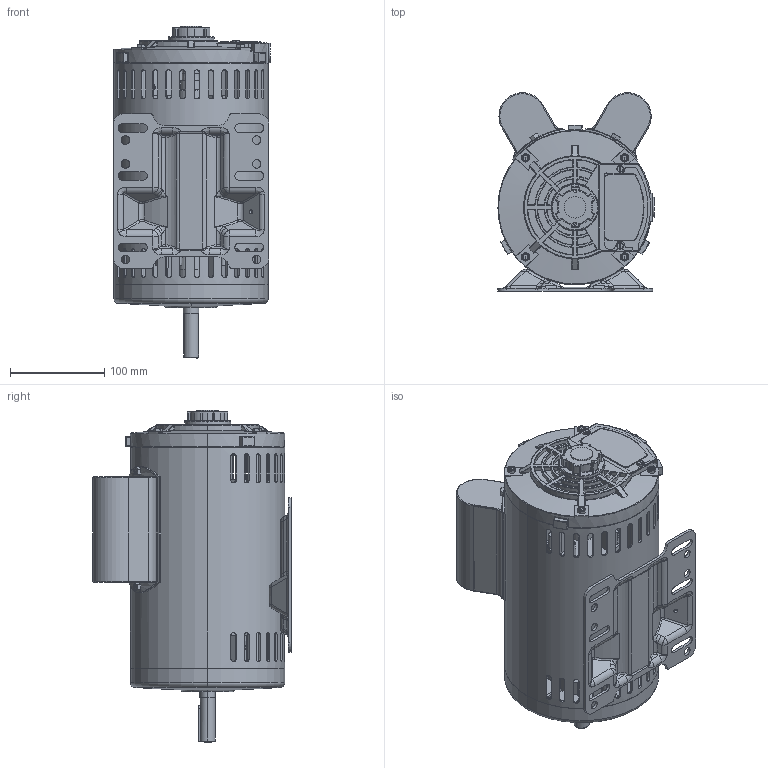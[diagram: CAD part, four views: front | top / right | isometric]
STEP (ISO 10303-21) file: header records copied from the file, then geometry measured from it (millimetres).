
FILE_DESCRIPTION (( 'STEP AP203' ), '1' );
FILE_NAME ('265.STEP', '2025-03-04T08:29:25', ( 'User' ), ( 'China' ), 'SwSTEP 2.0', 'SolidWorks 2019', '' );
FILE_SCHEMA (( 'CONFIG_CONTROL_DESIGN' ));
Products named in the file (6): 235儂褲; -g; 235lg; -d; 235郋粣; 265
Assembly tree (8 placements, depth 2):
  265
    235儂褲
    -g
    235lg  x4
    -d
    235郋粣
Bounding box: 167 x 210.87 x 353.15 mm (x, y, z)
Volume: 2088284.1 mm3; surface area: 789147 mm2
Topology: 29 solids, 29 shells, 3296 faces, 8694 edges, 5480 vertices
Faces by surface type: cylinder 1378, plane 1081, bspline 285, torus 278, cone 208, sphere 66
Entity records: 118335 total; most frequent: CARTESIAN_POINT 47301, ORIENTED_EDGE 15382, DIRECTION 13988, EDGE_CURVE 7691, AXIS2_PLACEMENT_3D 5281, VERTEX_POINT 4855, VECTOR 3426, LINE 3426
